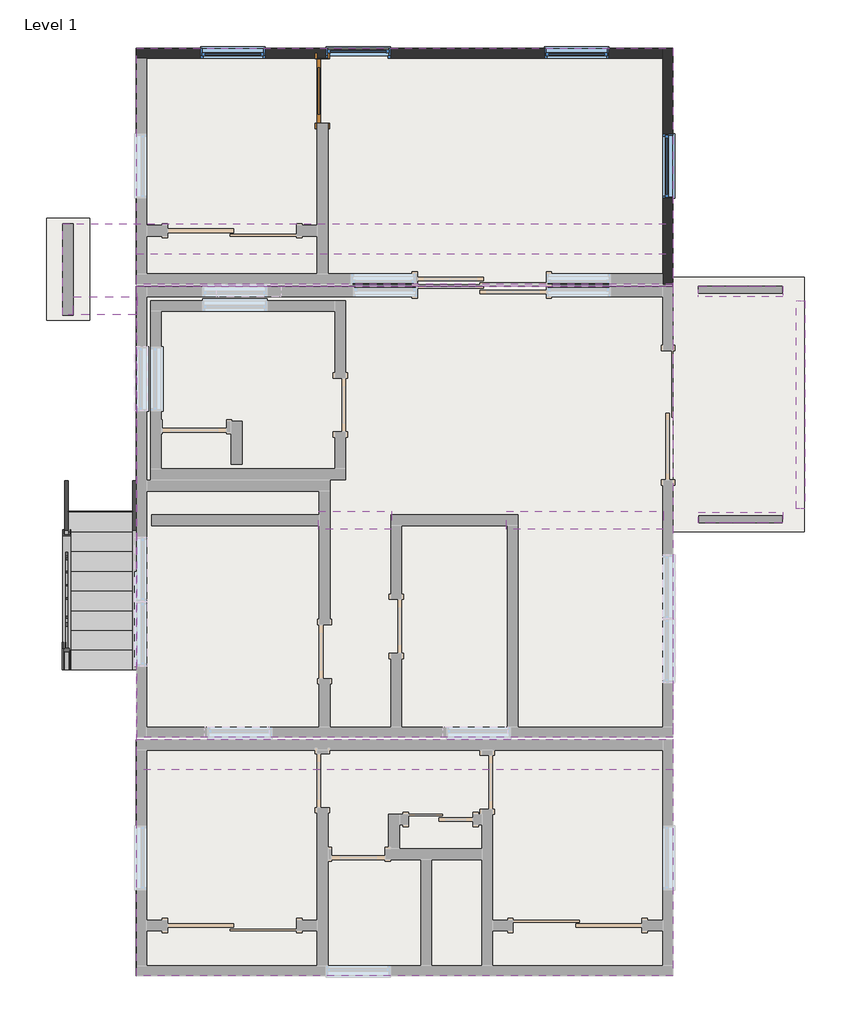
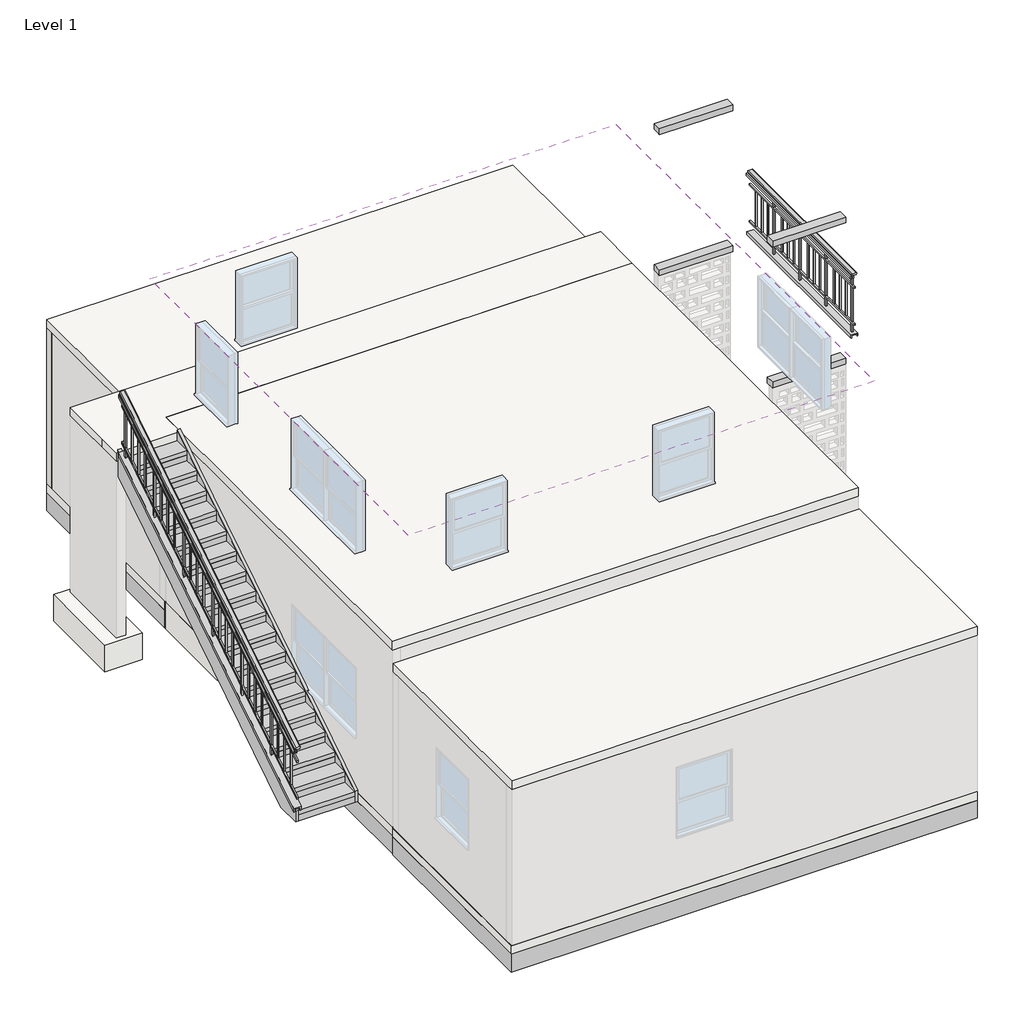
# One storey, part 3 of 3: 11 proxies, 9 slabs, 7 beams, 4 windows, 3 footings, 2 members, 2 railings, 2 walls, 3 other elements.
"""IFC4 building model written with IfcOpenShell, lengths in millimetres."""

from ifc_helpers import new_model, si_unit, frame, origin, place, context, project, spatial, polyline, outline, extrude, faceted_brep, transform, mapped, element, save
from components import door_d17baa25, railing_8500788b, railing_31ead5e1, stair_flight_477f73bb, window_0ee86fce, window_3cc1756d

model = new_model("IFC4")

# Units and contexts
model_context = context("Model", 3, world=origin())
ifc_project = project(units=[si_unit("LENGTHUNIT", "METRE", prefix="MILLI")], contexts=[model_context])

# Site, building, storey
site = spatial("IfcSite", under=ifc_project)
building = spatial("IfcBuilding", under=site)
storey = spatial("IfcBuildingStorey", under=building, Name="Level 1", Elevation=0.0)

# Beams
placement = place(None, origin())
element("IfcBeam", 1, ObjectType="Concrete-Rectangular Beam : 10 x 16", at=placement, inside=storey, context=model_context, shape_type="SweptSolid", body=[
    extrude(outline(polyline([(-8946.4990766, -22204.8513369), (-8946.4990766, -21950.8513369), (-7905.0990766, -21950.8513369), (-7905.0990766, -22204.8513369), (-8946.4990766, -22204.8513369)])), frame((0.0, 0.0, 2336.8), z_axis=(0.0, 0.0, 1.0), x_axis=(1.0, 0.0, 0.0)), (0.0, 0.0, 1.0), 406.4),
])
element("IfcBeam", 2, ObjectType="Concrete-Rectangular Beam : 10 x 16", at=placement, inside=storey, context=model_context, shape_type="SweptSolid", body=[
    extrude(outline(polyline([(-4049.3790766, -21950.8513369), (-4049.3790766, -22204.8513369), (-6279.499102, -22204.8513369), (-6279.499102, -21950.8513369), (-4049.3790766, -21950.8513369)])), frame((0.0, 0.0, 2692.4), z_axis=(0.0, 0.0, 1.0), x_axis=(1.0, 0.0, 0.0)), (0.0, 0.0, 1.0), 254.0),
])
element("IfcBeam", 3, ObjectType="Concrete-Rectangular Beam : 10 x 6", at=placement, inside=storey, context=model_context, shape_type="Brep", body=[
    faceted_brep([(-11520.1540766, -18912.3763369, 2946.4), (-11520.1540766, -19166.3763369, 2946.4), (-11520.1540766, -19166.3763369, 2844.8), (-11520.1540766, -18912.3763369, 2844.8), (-12421.8540766, -18912.3763369, 2946.4), (-12421.8540766, -19166.3763369, 2946.4), (-11529.6790766, -19166.3763369, 2946.4), (-12421.8540766, -19166.3763369, 2844.8), (-12421.8540766, -18912.3763369, 2844.8)], [[[0, 1, 2, 3]], [[1, 0, 4, 5, 6]], [[2, 1, 6, 5, 7]], [[3, 2, 7, 8]], [[0, 3, 8, 4]], [[5, 4, 8, 7]]]),
])
element("IfcBeam", 4, ObjectType="Concrete-Rectangular Beam : 12 x 8", at=placement, inside=storey, context=model_context, shape_type="Brep", body=[
    faceted_brep([(-3554.0790766, -18759.9763369, 5384.8), (-3554.0790766, -18912.3763369, 5384.8), (-2360.2592328, -18912.3763369, 5384.8), (-2360.2592328, -18759.9763369, 5384.8), (-3554.0790766, -18912.3763369, 5283.2), (-2360.2592328, -18912.3763369, 5283.2), (-3554.0790766, -18861.5763369, 5283.2), (-3554.0790766, -18759.9763369, 5283.2), (-2360.2592328, -18759.9763369, 5283.2), (-2360.2592328, -18861.5763369, 5283.2)], [[[0, 1, 2, 3]], [[1, 4, 5, 2]], [[4, 6, 7, 8, 9, 5]], [[7, 0, 3, 8]], [[1, 0, 7, 6, 4]], [[3, 2, 5, 9, 8]]]),
])
element("IfcBeam", 5, ObjectType="Concrete-Rectangular Beam : 12 x 8", at=placement, inside=storey, context=model_context, shape_type="Brep", body=[
    faceted_brep([(-3554.0790766, -18759.9763369, 2946.4), (-3554.0790766, -18912.3763369, 2946.4), (-2360.2592328, -18912.3763369, 2946.4), (-2360.2592328, -18759.9763369, 2946.4), (-3554.0790766, -18912.3763369, 2844.8), (-2360.2592328, -18912.3763369, 2844.8), (-3554.0790766, -18861.5763369, 2844.8), (-3554.0790766, -18759.9763369, 2844.8), (-2364.6816639, -18759.9763369, 2844.8), (-2360.2592328, -18759.9763369, 2844.8)], [[[0, 1, 2, 3]], [[1, 4, 5, 2]], [[4, 6, 7, 8, 9, 5]], [[7, 0, 3, 9, 8]], [[1, 0, 7, 6, 4]], [[3, 2, 5, 9]]]),
])
element("IfcBeam", 6, ObjectType="Concrete-Rectangular Beam : 12 x 8", at=placement, inside=storey, context=model_context, shape_type="Brep", body=[
    faceted_brep([(-3554.0592328, -21961.9634775, 5384.8), (-3554.0592328, -22114.3634775, 5384.8), (-2360.2592328, -22114.3634775, 5384.8), (-2360.2592328, -21961.9634775, 5384.8), (-3554.0592328, -21961.9634775, 5283.2), (-2360.2592328, -21961.9634775, 5283.2), (-3554.0592328, -22114.3634775, 5283.2), (-2360.2592328, -22012.7634775, 5283.2), (-2360.2592328, -22114.3634775, 5283.2)], [[[0, 1, 2, 3]], [[4, 0, 3, 5]], [[6, 4, 5, 7, 8]], [[1, 6, 8, 2]], [[1, 0, 4, 6]], [[3, 2, 8, 7, 5]]]),
])
element("IfcBeam", 7, ObjectType="Concrete-Rectangular Beam : 12 x 8", at=placement, inside=storey, context=model_context, shape_type="Brep", body=[
    faceted_brep([(-3554.0592328, -21961.9634775, 2946.4), (-3554.0592328, -22114.3634775, 2946.4), (-2360.2592328, -22114.3634775, 2946.4), (-2360.2592328, -21961.9634775, 2946.4), (-3554.0592328, -21961.9634775, 2844.8), (-2360.2592328, -21961.9634775, 2844.8), (-3554.0592328, -22114.3634775, 2844.8), (-2360.2592328, -22114.3634775, 2844.8), (-2362.0796936, -22114.3634775, 2844.8), (-3550.5554736, -22114.3634775, 2844.8)], [[[0, 1, 2, 3]], [[4, 0, 3, 5]], [[6, 4, 5, 7, 8, 9]], [[1, 6, 9, 8, 7, 2]], [[1, 0, 4, 6]], [[3, 2, 7, 5]]]),
])

# Proxies
element("IfcBuildingElementProxy", 8, Name="Ext Thickened Edge Slab - CIP Conc - 24x12", ObjectType="Ext Thickened Edge Slab - CIP Conc - 24x12", at=placement, inside=storey, context=model_context, shape_type="SweptSolid", body=[
    extrude(outline(polyline([(-558.8, -3914.4415766), (-254.0, -3914.4415766), (-254.0, -4828.8415766), (-558.8, -4524.0415766), (-558.8, -3914.4415766)])), frame((0.0, -18734.5763369, 0.0), z_axis=(0.0, 1.0, 0.0), x_axis=(0.0, 0.0, 1.0)), (0.0, 0.0, 1.0), 3347.9707033),
])
element("IfcBuildingElementProxy", 9, Name="Ext Thickened Edge Slab - CIP Conc - 24x12", ObjectType="Ext Thickened Edge Slab - CIP Conc - 24x12", at=placement, inside=storey, context=model_context, shape_type="Brep", body=[
    faceted_brep([(-11529.6790766, -15386.6056336, -558.8), (-11529.6790766, -15386.6056336, -254.0), (-10615.2790766, -16301.0056336, -254.0), (-10920.0790766, -15996.2056336, -558.8), (-11529.6790766, -18734.5763369, -558.8), (-10920.0790766, -18734.5763369, -558.8), (-10615.2790766, -18734.5763369, -254.0), (-11529.6790766, -18734.5763369, -254.0)], [[[0, 1, 2, 3]], [[4, 5, 6, 7]], [[1, 0, 4, 7]], [[2, 1, 7, 6]], [[3, 2, 6, 5]], [[0, 3, 5, 4]]]),
])
element("IfcBuildingElementProxy", 10, Name="Ext Thickened Edge Slab - CIP Conc - 24x12", ObjectType="Ext Thickened Edge Slab - CIP Conc - 24x12", at=placement, inside=storey, context=model_context, shape_type="Brep", body=[
    faceted_brep([(-3914.4415766, -18734.5763369, -558.8), (-3914.4415766, -18734.5763369, -254.0), (-4828.8415766, -18734.5763369, -254.0), (-4524.0415766, -18734.5763369, -558.8), (-3914.4415766, -15386.6056336, -558.8), (-3914.4415766, -15386.6056336, -254.0), (-4828.8415766, -16301.0056336, -254.0), (-4524.0415766, -15996.2056336, -558.8), (-11529.6790766, -15386.6056336, -558.8), (-10920.0790766, -15996.2056336, -558.8), (-10615.2790766, -16301.0056336, -254.0), (-11529.6790766, -15386.6056336, -254.0)], [[[0, 1, 2, 3]], [[1, 0, 4, 5]], [[2, 1, 5, 6]], [[3, 2, 6, 7]], [[0, 3, 7, 4]], [[8, 9, 10, 11]], [[5, 4, 8, 11]], [[6, 5, 11, 10]], [[7, 6, 10, 9]], [[4, 7, 9, 8]]]),
])
element("IfcBuildingElementProxy", 11, Name="Ext Thickened Edge Slab - CIP Conc - 24x12", ObjectType="Ext Thickened Edge Slab - CIP Conc - 24x12", at=placement, inside=storey, context=model_context, shape_type="Brep", body=[
    faceted_brep([(-11529.6790766, -25186.1763369, -558.8), (-11529.6790766, -25186.1763369, -254.0), (-10615.2790766, -25186.1763369, -254.0), (-10920.0790766, -25186.1763369, -558.8), (-11529.6790766, -28534.2138369, -558.8), (-11529.6790766, -28534.2138369, -254.0), (-10615.2790766, -27619.8138369, -254.0), (-10920.0790766, -27924.6138369, -558.8), (-3914.4415766, -28534.2138369, -558.8), (-3914.4415766, -28534.2138369, -254.0), (-4828.8415766, -27619.8138369, -254.0), (-4524.0415766, -27924.6138369, -558.8), (-3914.4415766, -25186.1763369, -558.8), (-4524.0415766, -25186.1763369, -558.8), (-4828.8415766, -25186.1763369, -254.0), (-3914.4415766, -25186.1763369, -254.0)], [[[0, 1, 2, 3]], [[1, 0, 4, 5]], [[2, 1, 5, 6]], [[3, 2, 6, 7]], [[0, 3, 7, 4]], [[5, 4, 8, 9]], [[6, 5, 9, 10]], [[7, 6, 10, 11]], [[4, 7, 11, 8]], [[12, 13, 14, 15]], [[9, 8, 12, 15]], [[10, 9, 15, 14]], [[11, 10, 14, 13]], [[8, 11, 13, 12]]]),
])
element("IfcBuildingElementProxy", 12, Name="Ext Thickened Edge Slab - CIP Conc - 24x12", ObjectType="Ext Thickened Edge Slab - CIP Conc - 24x12", at=placement, inside=storey, context=model_context, shape_type="Brep", body=[
    faceted_brep([(-11524.9165766, -21671.4513369, -558.8), (-11524.9165766, -21671.4513369, -254.0), (-10610.5165766, -21671.4513369, -254.0), (-10915.3165766, -21671.4513369, -558.8), (-11524.9165766, -25156.0138369, -558.8), (-10915.3165766, -24546.4138369, -558.8), (-10610.5165766, -24241.6138369, -254.0), (-11524.9165766, -25156.0138369, -254.0)], [[[0, 1, 2, 3]], [[4, 5, 6, 7]], [[1, 0, 4, 7]], [[2, 1, 7, 6]], [[3, 2, 6, 5]], [[0, 3, 5, 4]]]),
])
element("IfcBuildingElementProxy", 13, Name="Ext Thickened Edge Slab - CIP Conc - 24x12", ObjectType="Ext Thickened Edge Slab - CIP Conc - 24x12", at=placement, inside=storey, context=model_context, shape_type="Brep", body=[
    faceted_brep([(-3914.4415766, -25156.0138369, -558.8), (-3914.4415766, -25156.0138369, -254.0), (-4828.8415766, -24241.6138369, -254.0), (-4524.0415766, -24546.4138369, -558.8), (-3914.4415766, -18759.9763369, -558.8), (-4524.0415766, -19369.5763369, -558.8), (-4828.8415766, -19674.3763369, -254.0), (-3914.4415766, -18759.9763369, -254.0)], [[[0, 1, 2, 3]], [[4, 5, 6, 7]], [[1, 0, 4, 7]], [[2, 1, 7, 6]], [[3, 2, 6, 5]], [[0, 3, 5, 4]]]),
])
element("IfcBuildingElementProxy", 14, Name="Ext Thickened Edge Slab - CIP Conc - 24x12", ObjectType="Ext Thickened Edge Slab - CIP Conc - 24x12", at=placement, inside=storey, context=model_context, shape_type="SweptSolid", body=[
    extrude(outline(polyline([(-25186.1763369, -558.8), (-25795.7763369, -558.8), (-26100.5763369, -254.0), (-25186.1763369, -254.0), (-25186.1763369, -558.8)])), frame((-11021.9965766, 0.0, 0.0), z_axis=(1.0, 0.0, 0.0), x_axis=(0.0, 1.0, 0.0)), (0.0, 0.0, 1.0), 6346.03125),
])
element("IfcBuildingElementProxy", 15, Name="Ext Thickened Edge Slab - CIP Conc - 24x12", ObjectType="Ext Thickened Edge Slab - CIP Conc - 24x12", at=placement, inside=storey, context=model_context, shape_type="Brep", body=[
    faceted_brep([(-11524.9165766, -25156.0138369, -558.8), (-11524.9165766, -25156.0138369, -254.0), (-10610.5165766, -24241.6138369, -254.0), (-10915.3165766, -24546.4138369, -558.8), (-3914.4415766, -25156.0138369, -558.8), (-4524.0415766, -24546.4138369, -558.8), (-4828.8415766, -24241.6138369, -254.0), (-3914.4415766, -25156.0138369, -254.0)], [[[0, 1, 2, 3]], [[4, 5, 6, 7]], [[1, 0, 4, 7]], [[2, 1, 7, 6]], [[3, 2, 6, 5]], [[0, 3, 5, 4]]]),
])
element("IfcBuildingElementProxy", 16, Name="Ext Thickened Edge Slab - CIP Conc - 24x12", ObjectType="Ext Thickened Edge Slab - CIP Conc - 24x12", at=placement, inside=storey, context=model_context, shape_type="SweptSolid", body=[
    extrude(outline(polyline([(-18734.5763369, -558.8), (-18734.5763369, -254.0), (-17820.1763369, -254.0), (-18124.9763369, -558.8), (-18734.5763369, -558.8)])), frame((-10945.8442016, 0.0, 0.0), z_axis=(1.0, 0.0, 0.0), x_axis=(0.0, 1.0, 0.0)), (0.0, 0.0, 1.0), 6498.336),
])
element("IfcBuildingElementProxy", 17, Name="Ext Thickened Edge Slab - CIP Conc - 24x12", ObjectType="Ext Thickened Edge Slab - CIP Conc - 24x12", at=placement, inside=storey, context=model_context, shape_type="SweptSolid", body=[
    extrude(outline(polyline([(-18734.5763369, -558.8), (-18734.5763369, -254.0), (-17820.1763369, -254.0), (-18124.9763369, -558.8), (-18734.5763369, -558.8)])), frame((-10945.8442016, 0.0, 0.0), z_axis=(1.0, 0.0, 0.0), x_axis=(0.0, 1.0, 0.0)), (0.0, 0.0, 1.0), 6498.336),
])
element("IfcBuildingElementProxy", 18, Name="Ext Thickened Edge Slab - CIP Conc - 24x12", ObjectType="Ext Thickened Edge Slab - CIP Conc - 24x12", at=placement, inside=storey, context=model_context, shape_type="Brep", body=[
    faceted_brep([(-3914.4415766, -18759.9763369, -558.8), (-3914.4415766, -18759.9763369, -254.0), (-4828.8415766, -19674.3763369, -254.0), (-4524.0415766, -19369.5763369, -558.8), (-8208.0178891, -18759.9763369, -558.8), (-8208.0178891, -19369.5763369, -558.8), (-8208.0178891, -19674.3763369, -254.0), (-8208.0178891, -18759.9763369, -254.0)], [[[0, 1, 2, 3]], [[4, 5, 6, 7]], [[1, 0, 4, 7]], [[2, 1, 7, 6]], [[3, 2, 6, 5]], [[0, 3, 5, 4]]]),
])

# Door
door_shape = door_d17baa25(model_context)
element("IfcDoor", 19, ObjectType="Single-Panel 1 : 36\" x 80\"", at=placement, inside=storey, context=model_context, shape_type="MappedRepresentation", body=[
    mapped(door_shape, transform((-8888.0790766, -15991.4431336, -101.6), x_axis=(0.0, 1.0, 0.0), y_axis=(-1.0, 0.0, 0.0), z_axis=(0.0, 0.0, 1.0))),
])

# Footings
element("IfcFooting", 20, ObjectType="36\" x 18\" DP. CIP Conc STRIP  FTG", at=placement, inside=storey, context=model_context, shape_type="SweptSolid", body=[
    extrude(outline(polyline([(-7917.7990766, -22382.6513369), (-7917.7990766, -21773.0513369), (-6114.399102, -21773.0513369), (-6114.399102, -22382.6513369), (-7917.7990766, -22382.6513369)])), frame((0.0, 0.0, -558.8), z_axis=(0.0, 0.0, 1.0), x_axis=(1.0, 0.0, 0.0)), (0.0, 0.0, 1.0), 304.8),
])
element("IfcFooting", 21, ObjectType="36\" x 18\" DP. CIP Conc STRIP  FTG", at=placement, inside=storey, context=model_context, shape_type="SweptSolid", body=[
    extrude(outline(polyline([(-11308.6990766, -22382.6513369), (-11308.6990766, -21773.0513369), (-8933.7990766, -21773.0513369), (-8933.7990766, -22382.6513369), (-11308.6990766, -22382.6513369)])), frame((0.0, 0.0, -558.8), z_axis=(0.0, 0.0, 1.0), x_axis=(1.0, 0.0, 0.0)), (0.0, 0.0, 1.0), 304.8),
])
element("IfcFooting", 22, ObjectType="36\" x 18\" DP. CIP Conc STRIP  FTG", at=placement, inside=storey, context=model_context, shape_type="SweptSolid", body=[
    extrude(outline(polyline([(-12802.8540766, -17796.4320791), (-12193.2540766, -17796.4320791), (-12193.2540766, -19244.2320791), (-12802.8540766, -19244.2320791), (-12802.8540766, -17796.4320791)])), frame((0.0, 0.0, -558.8), z_axis=(0.0, 0.0, 1.0), x_axis=(1.0, 0.0, 0.0)), (0.0, 0.0, 1.0), 457.2),
])

# Members
element("IfcMember", 23, ObjectType="Stringer - 2\" Width", at=placement, inside=storey, context=model_context, shape_type="SweptSolid", body=[
    extrude(outline(polyline([(-24195.5763369, -239.2436536), (-24195.5763369, -52.5637136), (-19166.3763369, 3147.8362864), (-19166.3763369, 2696.2333561), (-23779.2687808, -239.2436536), (-24195.5763369, -239.2436536)])), frame((-12545.6039529, 0.0, 0.0), z_axis=(1.0, 0.0, 0.0), x_axis=(0.0, 1.0, 0.0)), (0.0, 0.0, 1.0), 50.8),
])
element("IfcMember", 24, ObjectType="Stringer - 2\" Width", at=placement, inside=storey, context=model_context, shape_type="SweptSolid", body=[
    extrude(outline(polyline([(-24195.5763369, -239.2436536), (-24195.5763369, -52.5637136), (-19166.3763369, 3147.8362864), (-19166.3763369, 2696.2333561), (-23779.2687808, -239.2436536), (-24195.5763369, -239.2436536)])), frame((-11580.4039529, 0.0, 0.0), z_axis=(1.0, 0.0, 0.0), x_axis=(0.0, 1.0, 0.0)), (0.0, 0.0, 1.0), 50.8),
])

# Railings
railing_shape = railing_8500788b(model_context)
element("IfcRailing", 25, ObjectType="Deco Type 4", at=placement, inside=storey, context=model_context, shape_type="MappedRepresentation", body=[
    mapped(railing_shape, transform((0.0, 0.0, 0.0), x_axis=(1.0, 0.0, 0.0), y_axis=(0.0, 1.0, 0.0), z_axis=(0.0, 0.0, 1.0))),
])
railing_2_shape = railing_31ead5e1(model_context)
element("IfcRailing", 26, ObjectType="Deco Type 4", at=placement, inside=storey, context=model_context, shape_type="MappedRepresentation", body=[
    mapped(railing_2_shape, transform((0.0, 0.0, 0.0), x_axis=(1.0, 0.0, 0.0), y_axis=(0.0, 1.0, 0.0), z_axis=(0.0, 0.0, 1.0))),
])

# Roof
element("IfcRoof", 27, ObjectType="zGeneric - 16", at=placement, inside=storey, context=model_context, shape_type="SweptSolid", body=[
    extrude(outline(polyline([(-18302.7763369, 5368.925), (-18302.7763369, 5216.525), (-21960.3763369, 6410.325), (-25617.9763369, 5216.525), (-25617.9763369, 5368.925), (-21960.3763369, 6562.725), (-18302.7763369, 5368.925)])), frame((-11524.9165766, 0.0, 0.0), z_axis=(1.0, 0.0, 0.0), x_axis=(0.0, 1.0, 0.0)), (0.0, 0.0, 1.0), 7610.475),
])

# Slabs
element("IfcSlab", 28, ObjectType="zGeneric - 6 Real 6", at=placement, inside=storey, context=model_context, shape_type="Brep", body=[
    faceted_brep([(-3914.4415766, -18759.9763369, -254.0), (-3914.4415766, -25156.0138369, -254.0), (-11524.9165766, -25156.0138369, -254.0), (-11524.9165766, -21671.4513369, -254.0), (-11524.9165766, -18759.9763369, -254.0), (-8513.4290766, -18759.9763369, -254.0), (-8208.6290766, -18759.9763369, -254.0), (-3914.4415766, -18759.9763369, -101.6), (-11524.9165766, -18759.9763369, -101.6), (-11524.9165766, -21671.4513369, -101.6), (-11524.9165766, -25156.0138369, -101.6), (-3914.4415766, -25156.0138369, -101.6), (-3914.4415766, -22241.3634775, -101.6)], [[[0, 1, 2, 3, 4, 5, 6]], [[7, 8, 9, 10, 11, 12]], [[1, 0, 7, 12, 11]], [[2, 1, 11, 10]], [[3, 2, 10, 9]], [[4, 3, 9, 8]], [[0, 6, 5, 4, 8, 7]]]),
])
element("IfcSlab", 29, ObjectType="zGeneric - 6 Real 6", at=placement, inside=storey, context=model_context, shape_type="Brep", body=[
    faceted_brep([(-3914.4415766, -15386.6056336, -254.0), (-3914.4415766, -18734.5763369, -254.0), (-11529.6790766, -18734.5763369, -254.0), (-11529.6790766, -15386.6056336, -254.0), (-3914.4415766, -15386.6056336, -101.6), (-11529.6790766, -15386.6056336, -101.6), (-11529.6790766, -18734.5763369, -101.6), (-3914.4415766, -18734.5763369, -101.6), (-3914.4415766, -18632.9763369, -101.6)], [[[0, 1, 2, 3]], [[4, 5, 6, 7, 8]], [[1, 0, 4, 8, 7]], [[2, 1, 7, 6]], [[3, 2, 6, 5]], [[0, 3, 5, 4]]]),
])
element("IfcSlab", 30, ObjectType="zGeneric - 6 Real 6", at=placement, inside=storey, context=model_context, shape_type="SweptSolid", body=[
    extrude(outline(polyline([(-3914.4415766, -25186.1763369), (-3914.4415766, -28534.2138369), (-11529.6790766, -28534.2138369), (-11529.6790766, -25186.1763369), (-3914.4415766, -25186.1763369)])), frame((0.0, 0.0, -254.0), z_axis=(0.0, 0.0, 1.0), x_axis=(1.0, 0.0, 0.0)), (0.0, 0.0, 1.0), 152.4),
])
element("IfcSlab", 31, ObjectType="zGeneric - 12", at=placement, inside=storey, context=model_context, shape_type="Brep", body=[
    faceted_brep([(-8513.4290766, -18759.9763369, -558.8), (-8208.6290766, -18759.9763369, -558.8), (-8208.6290766, -21366.6513369, -558.8), (-8208.6290766, -21671.4513369, -558.8), (-11529.6039529, -21671.4513369, -558.8), (-11529.6039529, -18759.9763369, -558.8), (-11529.6039529, -18759.9763369, -101.6), (-11529.6039529, -21671.4513369, -101.6), (-11524.9165766, -21671.4513369, -101.6), (-11524.9165766, -18759.9763369, -101.6), (-8513.4290766, -18759.9763369, -254.0), (-8208.6290766, -18759.9763369, -254.0), (-8208.6290766, -21366.6513369, -254.0), (-8208.6290766, -21671.4513369, -254.0), (-11524.9165766, -21671.4513369, -254.0), (-11524.9165766, -18759.9763369, -254.0)], [[[0, 1, 2, 3, 4, 5]], [[6, 7, 8, 9]], [[1, 0, 10, 11]], [[2, 1, 11, 12]], [[3, 2, 12, 13]], [[4, 3, 13, 14, 8, 7]], [[5, 4, 7, 6]], [[0, 5, 6, 9, 15, 10]], [[15, 14, 13, 12, 11, 10]], [[14, 15, 9, 8]]]),
])
element("IfcSlab", 32, ObjectType="zGeneric - 12", at=placement, inside=storey, context=model_context, shape_type="Brep", body=[
    faceted_brep([(-2055.4592328, -22165.1634775, -558.8), (-2055.4592328, -22241.3634775, -558.8), (-3914.4415766, -22241.3634775, -558.8), (-3914.4415766, -18734.5763369, -558.8), (-3914.4415766, -18632.9763369, -558.8), (-2055.4592328, -18632.9763369, -558.8), (-2055.4592328, -22165.1634775, -101.6), (-2055.4592328, -18632.9763369, -101.6), (-3914.4415766, -18632.9763369, -101.6), (-3914.4415766, -18734.5763369, -101.6), (-3914.4415766, -18759.9763369, -101.6), (-3914.4415766, -22241.3634775, -101.6), (-2055.4592328, -22241.3634775, -101.6)], [[[0, 1, 2, 3, 4, 5]], [[6, 7, 8, 9, 10, 11, 12]], [[1, 0, 6, 12]], [[2, 1, 12, 11]], [[3, 2, 11, 10, 9]], [[4, 3, 9, 8]], [[5, 4, 8, 7]], [[0, 5, 7, 6]]]),
])
element("IfcSlab", 33, ObjectType="zGeneric - 6 Real 6", at=placement, inside=storey, context=model_context, shape_type="SweptSolid", body=[
    extrude(outline(polyline([(-3914.4415766, -18759.9763369), (-3914.4415766, -25156.0138369), (-11520.1540766, -25156.0138369), (-11520.1540766, -18759.9763369), (-3914.4415766, -18759.9763369)])), frame((0.0, 0.0, 2946.4), z_axis=(0.0, 0.0, 1.0), x_axis=(1.0, 0.0, 0.0)), (0.0, 0.0, 1.0), 152.4),
])
element("IfcSlab", 34, ObjectType="zGeneric - 6 Real 6", at=placement, inside=storey, context=model_context, shape_type="Brep", body=[
    faceted_brep([(-12574.2540766, -17870.9763369, 2946.4), (-3914.4415766, -17870.9763369, 2946.4), (-3914.4415766, -18759.9763369, 2946.4), (-11520.1540766, -18759.9763369, 2946.4), (-11529.6790766, -18759.9763369, 2946.4), (-11529.6790766, -19166.3763369, 2946.4), (-12421.8540766, -19166.3763369, 2946.4), (-12574.2540766, -19166.3763369, 2946.4), (-12574.2540766, -18759.9763369, 2946.4), (-3914.4415766, -17870.9763369, 3098.8), (-12574.2540766, -17870.9763369, 3098.8), (-12574.2540766, -18759.9763369, 3098.8), (-12574.2540766, -19166.3763369, 3098.8), (-11529.6790766, -19166.3763369, 3098.8), (-11529.6790766, -18759.9763369, 3098.8), (-11520.1540766, -18759.9763369, 3098.8), (-3914.4415766, -18759.9763369, 3098.8)], [[[0, 1, 2, 3, 4, 5, 6, 7, 8]], [[9, 10, 11, 12, 13, 14, 15, 16]], [[1, 0, 10, 9]], [[2, 1, 9, 16]], [[2, 16, 15, 14, 4, 3]], [[0, 8, 11, 10]], [[5, 4, 14, 13]], [[7, 6, 5, 13, 12]], [[8, 7, 12, 11]]]),
])
element("IfcSlab", 35, ObjectType="6\" THK. CIP CONCRETE ROOF SLAB", at=placement, inside=storey, context=model_context, shape_type="SweptSolid", body=[
    extrude(outline(polyline([(-3914.4415766, -25186.1763369), (-3914.4415766, -28534.2138369), (-11524.9165766, -28534.2138369), (-11524.9165766, -25186.1763369), (-3914.4415766, -25186.1763369)])), frame((0.0, 0.0, 2590.8), z_axis=(0.0, 0.0, 1.0), x_axis=(1.0, 0.0, 0.0)), (0.0, 0.0, 1.0), 152.4),
])
element("IfcSlab", 36, ObjectType="6\" THK. CIP CONCRETE ROOF SLAB", at=placement, inside=storey, context=model_context, shape_type="SweptSolid", body=[
    extrude(outline(polyline([(-3914.4415766, -15386.6056336), (-3914.4415766, -18734.6431336), (-11524.9165766, -18734.6431336), (-11524.9165766, -15386.6056336), (-3914.4415766, -15386.6056336)])), frame((0.0, 0.0, 2590.8), z_axis=(0.0, 0.0, 1.0), x_axis=(1.0, 0.0, 0.0)), (0.0, 0.0, 1.0), 152.4),
])

# Stair flight
stair_flight_shape = stair_flight_477f73bb(model_context)
element("IfcStairFlight", 37, ObjectType="3\" Tread 1/2\" Riser", at=placement, inside=storey, context=model_context, shape_type="MappedRepresentation", body=[
    mapped(stair_flight_shape, transform((0.0, 0.0, 0.0), x_axis=(1.0, 0.0, 0.0), y_axis=(0.0, 1.0, 0.0), z_axis=(0.0, 0.0, 1.0))),
])

# Walls
element("IfcWall", 38, ObjectType="6\" CMU", at=placement, inside=storey, context=model_context, shape_type="Brep", body=[
    faceted_brep([(-3914.4415766, -15529.4806336, 2590.8), (-11382.0415766, -15529.4806336, 2590.8), (-11524.9165766, -15529.4806336, 2590.8), (-11524.9165766, -15529.4806336, -101.6), (-11382.0415766, -15529.4806336, -101.6), (-8964.2790766, -15529.4806336, -101.6), (-8837.2790766, -15529.4806336, -101.6), (-8837.2790766, -15529.4806336, 2032.0), (-7922.8790766, -15529.4806336, 2032.0), (-7922.8790766, -15529.4806336, -101.6), (-3914.4415766, -15529.4806336, -101.6), (-10615.2790766, -15529.4806336, 2032.0), (-9700.8790766, -15529.4806336, 2032.0), (-9700.8790766, -15529.4806336, 812.8), (-10615.2790766, -15529.4806336, 812.8), (-5738.4790766, -15529.4806336, 2032.0), (-4824.0790766, -15529.4806336, 2032.0), (-4824.0790766, -15529.4806336, 812.8), (-5738.4790766, -15529.4806336, 812.8), (-11524.9165766, -15386.6056336, 2590.8), (-3914.4415766, -15386.6056336, 2590.8), (-3914.4415766, -15386.6056336, -101.6), (-7922.8790766, -15386.6056336, -101.6), (-7922.8790766, -15386.6056336, 2032.0), (-8837.2790766, -15386.6056336, 2032.0), (-8837.2790766, -15386.6056336, -101.6), (-11524.9165766, -15386.6056336, -101.6), (-10615.2790766, -15386.6056336, 2032.0), (-10615.2790766, -15386.6056336, 812.8), (-9700.8790766, -15386.6056336, 812.8), (-9700.8790766, -15386.6056336, 2032.0), (-5738.4790766, -15386.6056336, 2032.0), (-5738.4790766, -15386.6056336, 812.8), (-4824.0790766, -15386.6056336, 812.8), (-4824.0790766, -15386.6056336, 2032.0)], [[[0, 1, 2, 3, 4, 5, 6, 7, 8, 9, 10], [11, 12, 13, 14], [15, 16, 17, 18]], [[19, 20, 21, 22, 23, 24, 25, 26], [27, 28, 29, 30], [31, 32, 33, 34]], [[3, 26, 25, 6, 5, 4]], [[21, 10, 9, 22]], [[2, 1, 0, 20, 19]], [[3, 2, 19, 26]], [[28, 27, 11, 14]], [[29, 28, 14, 13]], [[30, 29, 13, 12]], [[27, 30, 12, 11]], [[32, 31, 15, 18]], [[33, 32, 18, 17]], [[34, 33, 17, 16]], [[31, 34, 16, 15]], [[0, 10, 21, 20]], [[24, 7, 6, 25]], [[8, 23, 22, 9]], [[7, 24, 23, 8]]]),
])
element("IfcWall", 39, ObjectType="6\" CMU", at=placement, inside=storey, context=model_context, shape_type="SweptSolid", body=[
    extrude(outline(polyline([(-15386.6056336, -101.6), (-18734.6431336, -101.6), (-18734.6431336, 2590.8), (-15386.6056336, 2590.8), (-15386.6056336, -101.6)]), holes=[polyline([(-16601.0431336, 2032.0), (-17515.4431336, 2032.0), (-17515.4431336, 812.8), (-16601.0431336, 812.8), (-16601.0431336, 2032.0)])]), frame((-4057.3165766, 0.0, 0.0), z_axis=(1.0, 0.0, 0.0), x_axis=(0.0, 1.0, 0.0)), (0.0, 0.0, 1.0), 142.875),
])

# Windows
window_shape = window_0ee86fce(model_context)
element("IfcWindow", 40, ObjectType="Double Hung : 36\" x 48\"", at=placement, inside=storey, context=model_context, shape_type="MappedRepresentation", body=[
    mapped(window_shape, transform((-3985.8790766, -17058.2431336, -101.6), x_axis=(0.0, 1.0, 0.0), y_axis=(-1.0, 0.0, 0.0), z_axis=(0.0, 0.0, 1.0))),
])
element("IfcWindow", 41, ObjectType="Double Hung : 36\" x 48\"", at=placement, inside=storey, context=model_context, shape_type="MappedRepresentation", body=[
    mapped(window_shape, transform((-10158.0790766, -15458.0431336, -101.6), x_axis=(-1.0, 0.0, 0.0), y_axis=(0.0, -1.0, 0.0), z_axis=(0.0, 0.0, 1.0))),
])
element("IfcWindow", 42, ObjectType="Double Hung : 36\" x 48\"", at=placement, inside=storey, context=model_context, shape_type="MappedRepresentation", body=[
    mapped(window_shape, transform((-5281.2790766, -15458.0431336, -101.6), x_axis=(-1.0, 0.0, 0.0), y_axis=(0.0, -1.0, 0.0), z_axis=(0.0, 0.0, 1.0))),
])
window_2_shape = window_3cc1756d(model_context)
element("IfcWindow", 43, ObjectType="Double Hung : 36\" x 72\"", at=placement, inside=storey, context=model_context, shape_type="MappedRepresentation", body=[
    mapped(window_2_shape, transform((-8380.0790766, -15458.0431336, -482.6), x_axis=(-1.0, 0.0, 0.0), y_axis=(0.0, -1.0, 0.0), z_axis=(0.0, 0.0, 1.0))),
])

save(model, "model.ifc")
